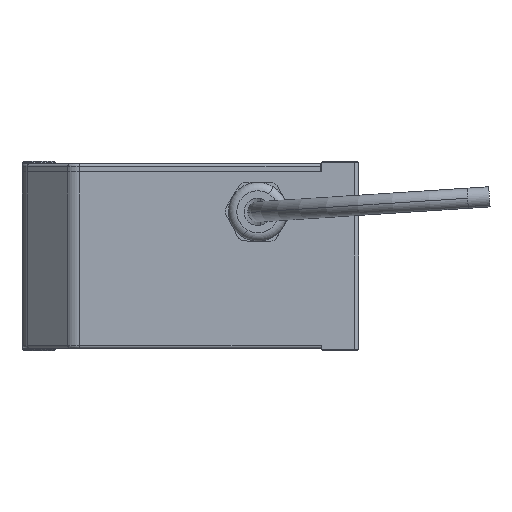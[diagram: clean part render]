
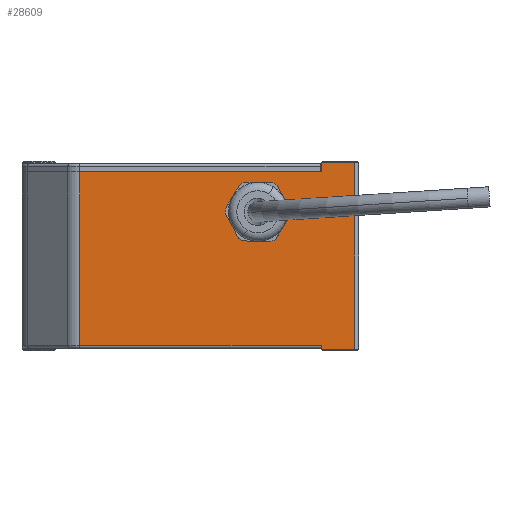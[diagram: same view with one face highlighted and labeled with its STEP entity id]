
A CAD part, left-side view. The second image highlights one B-rep face of the part: STEP entity #28609.
In plain terms, the highlighted planar face has unit normal (-1, 0, 0).
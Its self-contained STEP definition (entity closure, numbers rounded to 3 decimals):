
#7386 = VERTEX_POINT ( 'NONE', #39472 ) ;
#7390 = EDGE_CURVE ( 'NONE', #7386, #7392, #39470, .T. ) ;
#7392 = VERTEX_POINT ( 'NONE', #39462 ) ;
#7473 = EDGE_LOOP ( 'NONE', ( #17716, #17738, #17741, #17744, #17747, #17750, #17795, #17798 ) ) ;
#17657 = EDGE_LOOP ( 'NONE', ( #17658, #17660 ) ) ;
#17658 = ORIENTED_EDGE ( 'NONE', *, *, #17659, .F. ) ;
#17659 = EDGE_CURVE ( 'NONE', #7392, #7386, #46595, .T. ) ;
#17660 = ORIENTED_EDGE ( 'NONE', *, *, #7390, .F. ) ;
#17706 = EDGE_CURVE ( 'NONE', #17707, #17708, #46827, .T. ) ;
#17707 = VERTEX_POINT ( 'NONE', #46811 ) ;
#17708 = VERTEX_POINT ( 'NONE', #46809 ) ;
#17716 = ORIENTED_EDGE ( 'NONE', *, *, #17706, .T. ) ;
#17738 = ORIENTED_EDGE ( 'NONE', *, *, #17739, .T. ) ;
#17739 = EDGE_CURVE ( 'NONE', #17708, #17740, #47068, .T. ) ;
#17740 = VERTEX_POINT ( 'NONE', #47059 ) ;
#17741 = ORIENTED_EDGE ( 'NONE', *, *, #17742, .T. ) ;
#17742 = EDGE_CURVE ( 'NONE', #17740, #17743, #47052, .T. ) ;
#17743 = VERTEX_POINT ( 'NONE', #47046 ) ;
#17744 = ORIENTED_EDGE ( 'NONE', *, *, #17745, .T. ) ;
#17745 = EDGE_CURVE ( 'NONE', #17743, #17746, #47044, .T. ) ;
#17746 = VERTEX_POINT ( 'NONE', #47039 ) ;
#17747 = ORIENTED_EDGE ( 'NONE', *, *, #17748, .T. ) ;
#17748 = EDGE_CURVE ( 'NONE', #17746, #17749, #47037, .T. ) ;
#17749 = VERTEX_POINT ( 'NONE', #47032 ) ;
#17750 = ORIENTED_EDGE ( 'NONE', *, *, #17751, .T. ) ;
#17751 = EDGE_CURVE ( 'NONE', #17749, #17752, #47151, .T. ) ;
#17752 = VERTEX_POINT ( 'NONE', #47147 ) ;
#17795 = ORIENTED_EDGE ( 'NONE', *, *, #17796, .F. ) ;
#17796 = EDGE_CURVE ( 'NONE', #17797, #17752, #47431, .T. ) ;
#17797 = VERTEX_POINT ( 'NONE', #47426 ) ;
#17798 = ORIENTED_EDGE ( 'NONE', *, *, #17799, .F. ) ;
#17799 = EDGE_CURVE ( 'NONE', #17707, #17797, #47423, .T. ) ;
#23828 = FACE_OUTER_BOUND ( 'NONE', #7473, .T. ) ;
#23829 = FACE_BOUND ( 'NONE', #17657, .T. ) ;
#23869 = DIRECTION ( 'NONE',  ( 0., 0., 1. ) ) ;
#23870 = DIRECTION ( 'NONE',  ( 1., 0., 0. ) ) ;
#23871 = CARTESIAN_POINT ( 'NONE',  ( -76., 39.5, 26.5 ) ) ;
#23872 = AXIS2_PLACEMENT_3D ( 'NONE', #23871, #23870, #23869 ) ;
#23873 = PLANE ( 'NONE',  #23872 ) ;
#28609 = ADVANCED_FACE ( 'NONE', ( #23829, #23828 ), #23873, .F. ) ;
#39462 = CARTESIAN_POINT ( 'NONE',  ( -76., -16.5, 8.86 ) ) ;
#39463 = DIRECTION ( 'NONE',  ( 0., 0., -1. ) ) ;
#39466 = DIRECTION ( 'NONE',  ( -1., 0., 0. ) ) ;
#39467 = CARTESIAN_POINT ( 'NONE',  ( -76., -16.5, 14.5 ) ) ;
#39469 = AXIS2_PLACEMENT_3D ( 'NONE', #39467, #39466, #39463 ) ;
#39470 = CIRCLE ( 'NONE', #39469, 5.64 ) ;
#39472 = CARTESIAN_POINT ( 'NONE',  ( -76., -16.5, 20.14 ) ) ;
#46587 = DIRECTION ( 'NONE',  ( 0., 0., -1. ) ) ;
#46589 = DIRECTION ( 'NONE',  ( -1., 0., 0. ) ) ;
#46590 = CARTESIAN_POINT ( 'NONE',  ( -76., -16.5, 14.5 ) ) ;
#46592 = AXIS2_PLACEMENT_3D ( 'NONE', #46590, #46589, #46587 ) ;
#46595 = CIRCLE ( 'NONE', #46592, 5.64 ) ;
#46809 = CARTESIAN_POINT ( 'NONE',  ( -76., 25.843, -17.3 ) ) ;
#46811 = CARTESIAN_POINT ( 'NONE',  ( -76., 25.843, 24. ) ) ;
#46813 = DIRECTION ( 'NONE',  ( 0., 0., -1. ) ) ;
#46815 = VECTOR ( 'NONE', #46813, 1000. ) ;
#46818 = CARTESIAN_POINT ( 'NONE',  ( -76., 25.843, -18. ) ) ;
#46827 = LINE ( 'NONE', #46818, #46815 ) ;
#47032 = CARTESIAN_POINT ( 'NONE',  ( -76., -39.5, 26.2 ) ) ;
#47033 = DIRECTION ( 'NONE',  ( 0., 0., 1. ) ) ;
#47035 = VECTOR ( 'NONE', #47033, 1000. ) ;
#47036 = CARTESIAN_POINT ( 'NONE',  ( -76., -39.5, 26.5 ) ) ;
#47037 = LINE ( 'NONE', #47036, #47035 ) ;
#47039 = CARTESIAN_POINT ( 'NONE',  ( -76., -39.5, -18.2 ) ) ;
#47041 = DIRECTION ( 'NONE',  ( 0., -1., 0. ) ) ;
#47042 = VECTOR ( 'NONE', #47041, 1000. ) ;
#47043 = CARTESIAN_POINT ( 'NONE',  ( -76., -39.5, -18.2 ) ) ;
#47044 = LINE ( 'NONE', #47043, #47042 ) ;
#47046 = CARTESIAN_POINT ( 'NONE',  ( -76., -31.55, -18.2 ) ) ;
#47049 = DIRECTION ( 'NONE',  ( 0., 0., -1. ) ) ;
#47050 = VECTOR ( 'NONE', #47049, 1000. ) ;
#47051 = CARTESIAN_POINT ( 'NONE',  ( -76., -31.55, -18. ) ) ;
#47052 = LINE ( 'NONE', #47051, #47050 ) ;
#47059 = CARTESIAN_POINT ( 'NONE',  ( -76., -31.55, -17.3 ) ) ;
#47062 = DIRECTION ( 'NONE',  ( 0., -1., 0. ) ) ;
#47064 = VECTOR ( 'NONE', #47062, 1000. ) ;
#47066 = CARTESIAN_POINT ( 'NONE',  ( -76., -31.55, -17.3 ) ) ;
#47068 = LINE ( 'NONE', #47066, #47064 ) ;
#47147 = CARTESIAN_POINT ( 'NONE',  ( -76., -31.55, 26.2 ) ) ;
#47148 = DIRECTION ( 'NONE',  ( 0., 1., 0. ) ) ;
#47149 = VECTOR ( 'NONE', #47148, 1000. ) ;
#47150 = CARTESIAN_POINT ( 'NONE',  ( -76., 39.5, 26.2 ) ) ;
#47151 = LINE ( 'NONE', #47150, #47149 ) ;
#47419 = DIRECTION ( 'NONE',  ( 0., -1., 0. ) ) ;
#47420 = VECTOR ( 'NONE', #47419, 1000. ) ;
#47421 = CARTESIAN_POINT ( 'NONE',  ( -76., 39.5, 24. ) ) ;
#47423 = LINE ( 'NONE', #47421, #47420 ) ;
#47426 = CARTESIAN_POINT ( 'NONE',  ( -76., -31.55, 24. ) ) ;
#47428 = DIRECTION ( 'NONE',  ( 0., 0., 1. ) ) ;
#47429 = VECTOR ( 'NONE', #47428, 1000. ) ;
#47430 = CARTESIAN_POINT ( 'NONE',  ( -76., -31.55, 24. ) ) ;
#47431 = LINE ( 'NONE', #47430, #47429 ) ;
